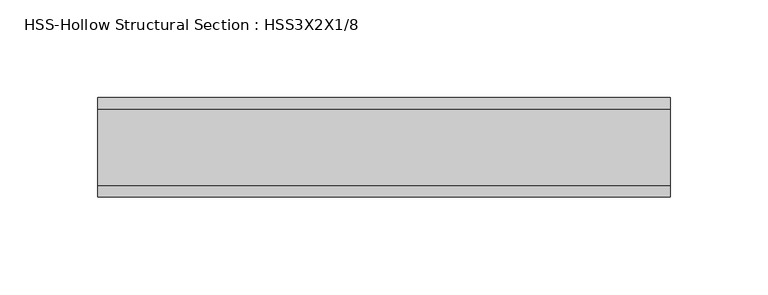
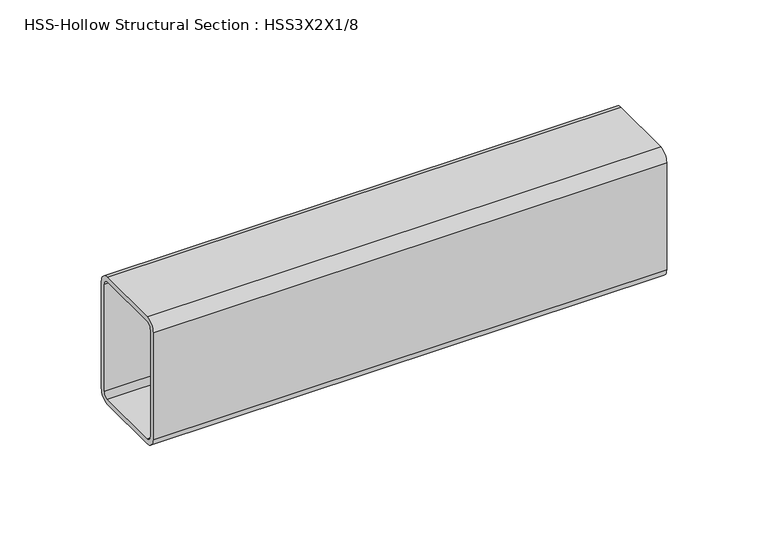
"""IFC4 building model written with IfcOpenShell, lengths in millimetres: beam geometry, HSS-Hollow Structural Section : HSS3X2X1/8."""

from ifc_helpers import new_model, si_unit, point, frame, frame_2d, origin, place, context, project, spatial, polyline, circle_curve, trimmed, segment, composite_curve, outline, extrude, source, transform, mapped, element, save


def hss_hollow_structural_section_hss3x2x1_8_013797e3(model_context):
    return source(origin(), model_context, "Body", "SweptSolid", [
        extrude(outline(composite_curve([segment(polyline([(25.4, 32.2072), (25.4, -32.2072)]), True, "CONTINUOUS"), segment(trimmed(circle_curve(frame_2d((19.5072, -32.2072)), 5.8928), [point((25.4, -32.2072))], [point((19.5072, -38.1))], False, "CARTESIAN"), True, "CONTINUOUS"), segment(polyline([(19.5072, -38.1), (-19.5072, -38.1)]), True, "CONTINUOUS"), segment(trimmed(circle_curve(frame_2d((-19.5072, -32.2072)), 5.8928), [point((-19.5072, -38.1))], [point((-25.4, -32.2072))], False, "CARTESIAN"), True, "CONTINUOUS"), segment(polyline([(-25.4, -32.2072), (-25.4, 32.2072)]), True, "CONTINUOUS"), segment(trimmed(circle_curve(frame_2d((-19.5072, 32.2072)), 5.8928), [point((-25.4, 32.2072))], [point((-19.5072, 38.1))], False, "CARTESIAN"), True, "CONTINUOUS"), segment(polyline([(-19.5072, 38.1), (19.5072, 38.1)]), True, "CONTINUOUS"), segment(trimmed(circle_curve(frame_2d((19.5072, 32.2072)), 5.8928), [point((19.5072, 38.1))], [point((25.4, 32.2072))], False, "CARTESIAN"), True, "CONTINUOUS")], self_intersect=False), holes=[composite_curve([segment(trimmed(circle_curve(frame_2d((-19.5072, 32.2072)), 2.9464), [point((-19.5072, 35.1536))], [point((-22.4536, 32.2072))], True, "CARTESIAN"), True, "CONTINUOUS"), segment(polyline([(-22.4536, 32.2072), (-22.4536, -32.2072)]), True, "CONTINUOUS"), segment(trimmed(circle_curve(frame_2d((-19.5072, -32.2072)), 2.9464), [point((-22.4536, -32.2072))], [point((-19.5072, -35.1536))], True, "CARTESIAN"), True, "CONTINUOUS"), segment(polyline([(-19.5072, -35.1536), (19.5072, -35.1536)]), True, "CONTINUOUS"), segment(trimmed(circle_curve(frame_2d((19.5072, -32.2072)), 2.9464), [point((19.5072, -35.1536))], [point((22.4536, -32.2072))], True, "CARTESIAN"), True, "CONTINUOUS"), segment(polyline([(22.4536, -32.2072), (22.4536, 32.2072)]), True, "CONTINUOUS"), segment(trimmed(circle_curve(frame_2d((19.5072, 32.2072)), 2.9464), [point((22.4536, 32.2072))], [point((19.5072, 35.1536))], True, "CARTESIAN"), True, "CONTINUOUS"), segment(polyline([(19.5072, 35.1536), (-19.5072, 35.1536)]), True, "CONTINUOUS")], self_intersect=False)]), frame((-127.0, 0.0, 0.0), z_axis=(1.0, 0.0, 0.0), x_axis=(0.0, 1.0, 0.0)), (0.0, 0.0, 1.0), 292.1),
    ])


if __name__ == "__main__":
    model = new_model("IFC4")
    model_context = context("Model", 3, world=origin())
    ifc_project = project(units=[si_unit("LENGTHUNIT", "METRE", prefix="MILLI")], contexts=[model_context])
    site = spatial("IfcSite", under=ifc_project)
    building = spatial("IfcBuilding", under=site)
    placement = place(None, origin())
    hss_hollow_structural_section_hss3x2x1_8_shape = hss_hollow_structural_section_hss3x2x1_8_013797e3(model_context)
    element("IfcBeam", 1, ObjectType="HSS-Hollow Structural Section : HSS3X2X1/8", at=placement, inside=building, context=model_context, shape_type="MappedRepresentation", body=[
        mapped(hss_hollow_structural_section_hss3x2x1_8_shape, transform((0.0, 0.0, 0.0), x_axis=(1.0, 0.0, 0.0), y_axis=(0.0, 1.0, 0.0), z_axis=(0.0, 0.0, 1.0))),
    ])
    save(model, "model.ifc")
